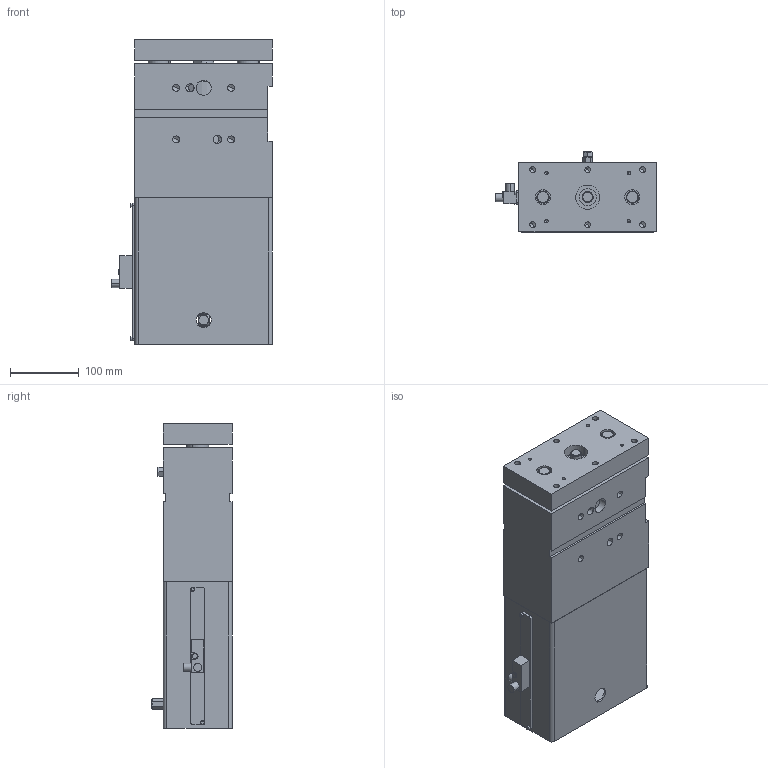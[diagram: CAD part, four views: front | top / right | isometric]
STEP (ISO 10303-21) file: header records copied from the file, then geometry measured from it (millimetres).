
FILE_DESCRIPTION(('CATIA V5 STEP Exchange'),'2;1');
FILE_NAME('C:\Users\huberm\Desktop\MZVD\MZVD_50_180_PL_T12_TUENKERS.stp','2016-10-31T08:34:40+00:00',('none'),('none'),'CATIA Version 5 Release 19 SP 9 (IN-10)','CATIA V5 STEP AP214','none');
FILE_SCHEMA(('AUTOMOTIVE_DESIGN { 1 0 10303 214 1 1 1 1 }'));
Length unit declared in the file: millimetre
Products named in the file (1): MZVD_50_180_PL_T12_TUENKERS
Bounding box: 234 x 116.5 x 443 mm (x, y, z)
Volume: 5405152.4 mm3; surface area: 688640.4 mm2
Topology: 1 solids, 15 shells, 531 faces, 1266 edges, 756 vertices
Faces by surface type: cylinder 195, plane 154, cone 154, torus 24, sphere 4
Entity records: 18352 total; most frequent: CARTESIAN_POINT 3677, ORIENTED_EDGE 2396, DIRECTION 1791, EDGE_CURVE 1198, AXIS2_PLACEMENT_3D 899, VERTEX_POINT 756, EDGE_LOOP 618, PRESENTATION_STYLE_ASSIGNMENT 532
